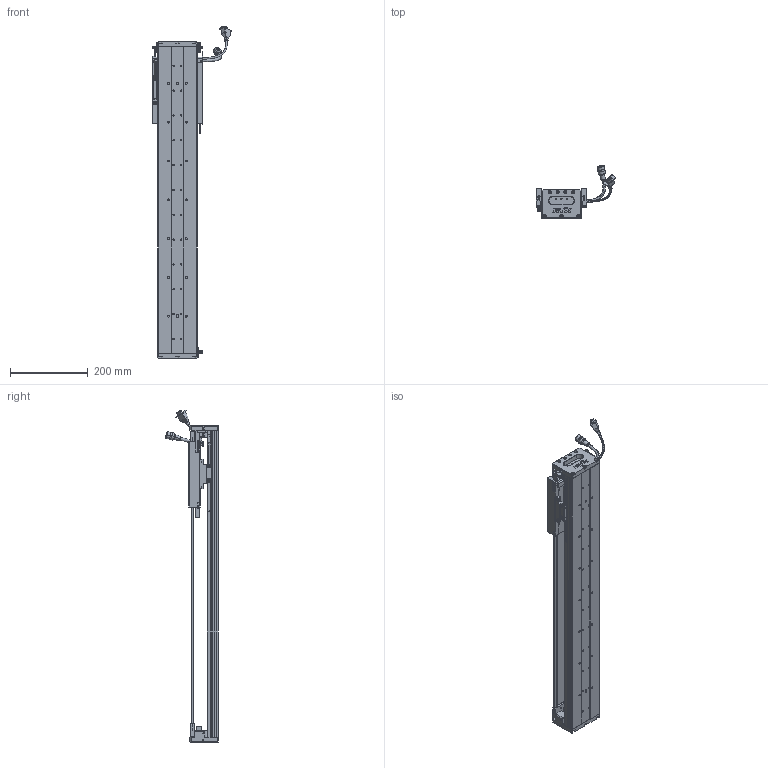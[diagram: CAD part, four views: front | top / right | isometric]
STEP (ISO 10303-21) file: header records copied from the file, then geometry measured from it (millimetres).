
FILE_DESCRIPTION (( 'STEP AP203' ), '1' );
FILE_NAME ('Z2-RY100D-1-L500-B-K.SLDASM_0550.step', '2021-05-17T02:35:18', ( '盈信电脑' ), ( '东莞市道滘镇水果街19号' ), 'SwSTEP 2.0', 'SolidWorks 2016', '' );
FILE_SCHEMA (( 'CONFIG_CONTROL_DESIGN' ));
Length unit declared in the file: millimetre
Products named in the file (36): 140蚥薯蝶輸; Z-100詩湍傷裔啣; 覜茼ん672; 080黍杅芛假蚾釱21遴; Z2-RY100D-500-倰第菁釱_0550; SCALE; SCREW-M1.6-1; 140雄赽晤鎢ん堤盄; Z2-RY100-L500詩湍90mm遵_0550; Z-RY100D詩湍狟揤裔; SCREW-M1.6; COVER; 榋妏寠巭燃_暯_M2_2; HARNESS; SEAL-Part-1; Z2-RY100铝滑块（21款）; SCREW-M1.7; HOLDER0; SCREW-M1.6-3; LABEL-Part-1; SEAL; 100-Z-臏賑輸盄裔(21遴); LABEL; SCALE-Part-1; Z2-RY100D-1-L500-B-K.SLDASM_0550; HARNESS-Part-2; SCREW-M1.7-1; SCREW-M1.6-2; COVER-Part-1; SHIELDPLATE; PSLH080_PSLF2; Z-RY100D詩湍奻揤裔; Z-RY100D覜茼んえ; SCALE-Part-2; HARNESS-Part-1; PBU_SHEET
Assembly tree (43 placements, depth 4):
  Z2-RY100D-1-L500-B-K.SLDASM_0550
    Z2-RY100D-500-倰第菁釱_0550
    Z2-RY100铝滑块（21款）
    PSLH080_PSLF2
      SCALE
        SCALE-Part-1
        SCALE-Part-2
      HARNESS
        HARNESS-Part-1
        HARNESS-Part-2
      LABEL
        LABEL-Part-1
      COVER
        COVER-Part-1
      SEAL
        SEAL-Part-1
      榋妏寠巭燃_暯_M2_2
      SHIELDPLATE
      SCREW-M1.7
      SCREW-M1.7-1
      PBU_SHEET
      SCREW-M1.6
      SCREW-M1.6-1
      SCREW-M1.6-2
      SCREW-M1.6-3
      HOLDER0
    080黍杅芛假蚾釱21遴
    Z-100詩湍傷裔啣  x2
    140蚥薯蝶輸  x2
    覜茼ん672  x3
    Z-RY100D覜茼んえ  x3
    100-Z-臏賑輸盄裔(21遴)
    140雄赽晤鎢ん堤盄
    Z2-RY100-L500詩湍90mm遵_0550
    Z-RY100D詩湍狟揤裔  x2
    Z-RY100D詩湍奻揤裔  x2
Bounding box: 205.84 x 136.11 x 855.43 mm (x, y, z)
Volume: 1889998.7 mm3; surface area: 722991.6 mm2
Topology: 38 solids, 38 shells, 2484 faces, 6471 edges, 4088 vertices
Faces by surface type: plane 1106, cylinder 1038, cone 218, torus 69, bspline 53
Entity records: 66531 total; most frequent: CARTESIAN_POINT 14076, DIRECTION 10463, ORIENTED_EDGE 9838, EDGE_CURVE 4919, AXIS2_PLACEMENT_3D 3819, VERTEX_POINT 3156, VECTOR 2825, LINE 2825
